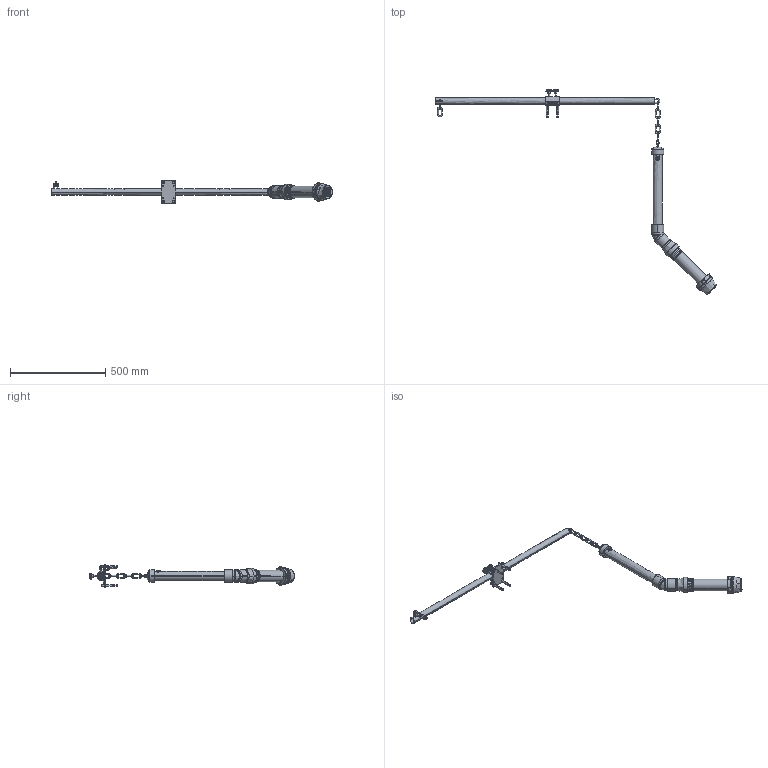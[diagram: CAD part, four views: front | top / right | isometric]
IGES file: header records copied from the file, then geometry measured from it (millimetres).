
Start section: SolidWorks IGES file using analytic representation for surfaces
Global section: file name: G:\EGK\USER\Sabine Krause\Public Group\meine_PDF\LZX914_TD_12400__001.IGS; native system: SolidWorks 2012; preprocessor: SolidWorks 2012; author: skrause; date: 140225.120137; units: millimetre
Bounding box: 1473.34 x 1073.5 x 120 mm (x, y, z)
Surface area: 685273.2 mm2 (no closed solid volume)
Topology: 0 solids, 0 shells, 2462 faces, 30231 edges, 30108 vertices
Faces by surface type: bspline 1538, revolution 924
